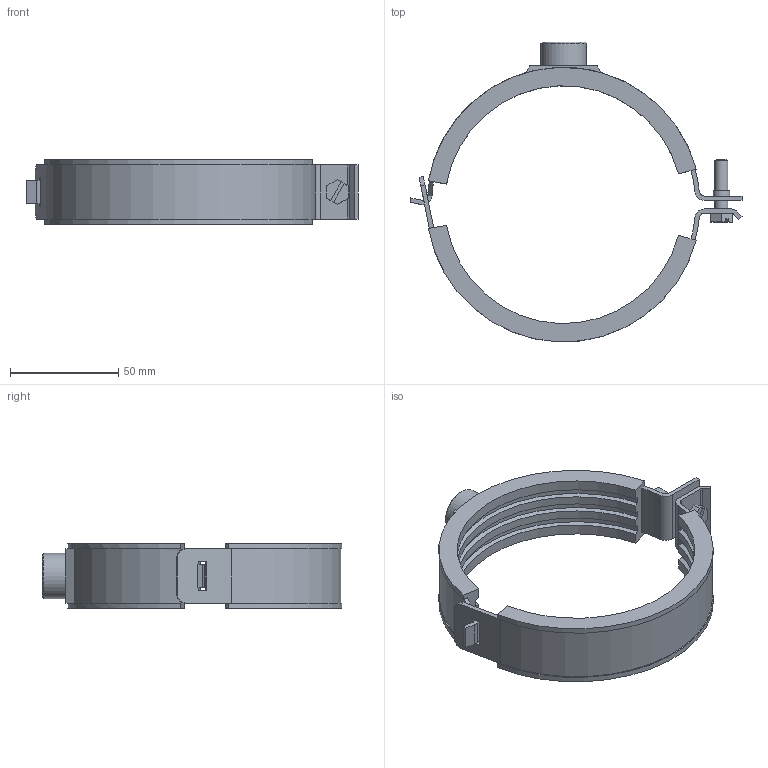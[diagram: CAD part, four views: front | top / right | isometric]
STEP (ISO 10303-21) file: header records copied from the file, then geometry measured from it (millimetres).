
FILE_DESCRIPTION(/* description */ (''),/* implementation_level */ '2;1');
FILE_NAME(/* name */ 'H:\Geberit-Teile\Export\Rohrschelle gedämmt ART\stp\310812.stp',/* time_stamp */ '2014-04-15T15:31:54+02:00',/* author */ ('seihe2'),/* organization */ (''),/* preprocessor_version */ 'ST-DEVELOPER v15.2',/* originating_system */ 'Autodesk Inventor 2014',/* authorisation */ '');
FILE_SCHEMA (('AUTOMOTIVE_DESIGN { 1 0 10303 214 3 1 1 }'));
Length unit declared in the file: millimetre
Products named in the file (1): 310812
Bounding box: 153.54 x 138.64 x 30 mm (x, y, z)
Volume: 80172.8 mm3; surface area: 37712.9 mm2
Topology: 1 solids, 1 shells, 132 faces, 370 edges, 238 vertices
Faces by surface type: plane 73, cylinder 45, cone 14
Full cylindrical faces by diameter (mm): 6 x2, 7.75 x1, 10 x1, 20.95 x1
Entity records: 4387 total; most frequent: DIRECTION 745, CARTESIAN_POINT 734, ORIENTED_EDGE 726, EDGE_CURVE 363, AXIS2_PLACEMENT_3D 249, LINE 247, VECTOR 247, VERTEX_POINT 238
